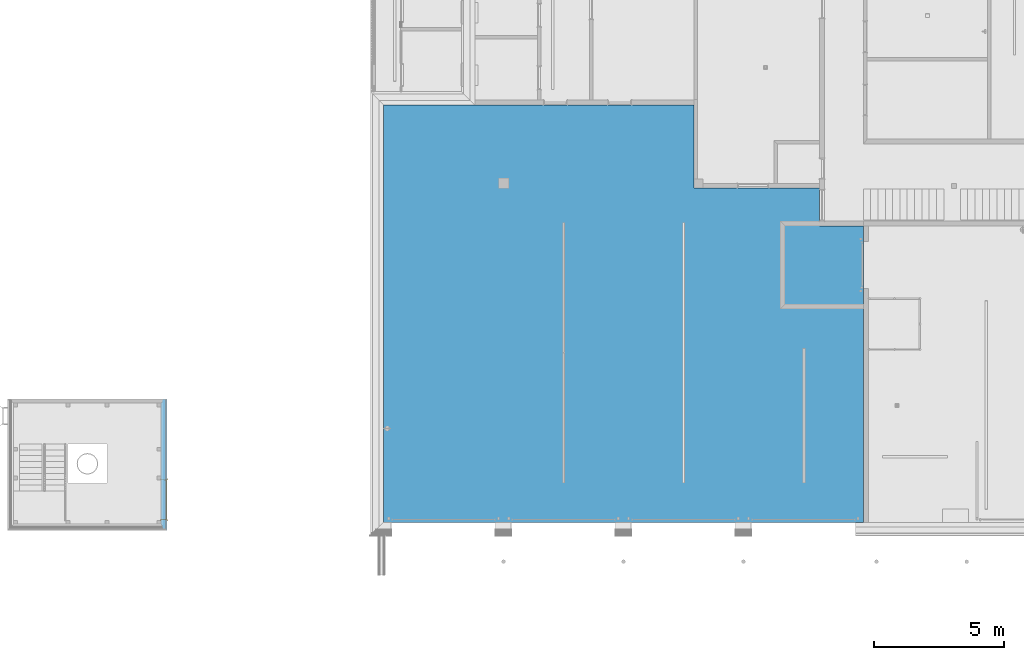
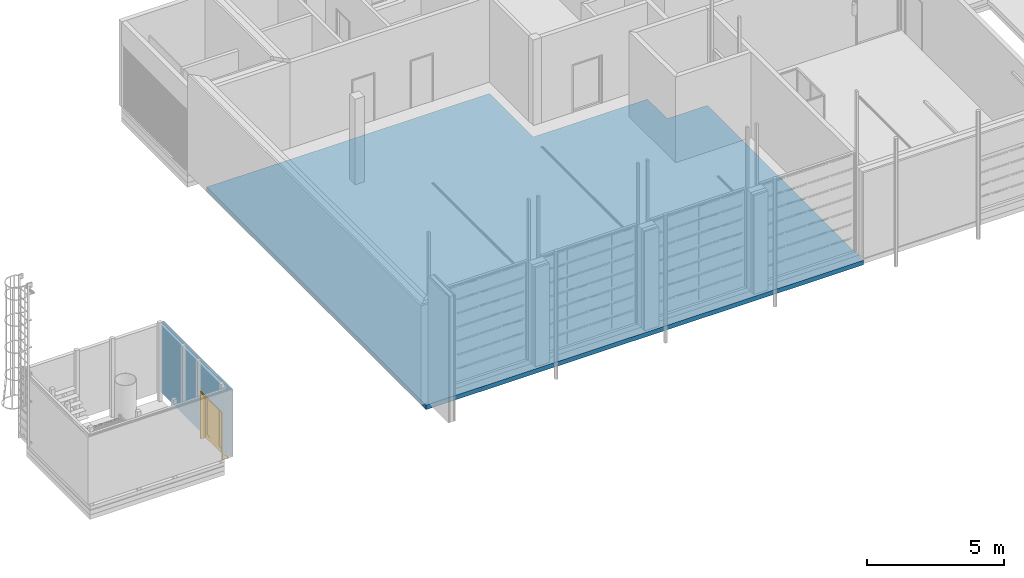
# One storey, part 48 of 112: 1 building element part, 1 door, 1 opening, 2 elements without a shape of their own, plus 5 elements that do not belong to this part.
"""IFC2X3 building model written with IfcOpenShell, lengths in millimetres."""

from ifc_helpers import new_model, entity, si_unit, converted_unit, derived_unit, money_unit, direction, frame, origin_with_axes, origin_2d_with_axis, place, context, subcontext, project, spatial, polyline, rectangle, outline, extrude, boolean, open_shell, faceted_brep, surface_model, material, type_object, element, fill, aggregate, save


model = new_model("IFC2X3")

# Units and contexts
model_context = context("Model", 3, precision=0.01, world=origin_with_axes(), true_north=direction((0.0, 1.0)))
body_context = subcontext(model_context, "Body", "Model", "MODEL_VIEW")
ifc_project = project(units=[si_unit("LENGTHUNIT", "METRE", prefix="MILLI"), si_unit("AREAUNIT", "SQUARE_METRE"), si_unit("VOLUMEUNIT", "CUBIC_METRE"), converted_unit("PLANEANGLEUNIT", "DEGREE", entity("IfcPlaneAngleMeasure", 0.0174532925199), si_unit("PLANEANGLEUNIT", "RADIAN"), dimensions=[0, 0, 0, 0, 0, 0, 0]), si_unit("SOLIDANGLEUNIT", "STERADIAN"), money_unit("EUR"), converted_unit("TIMEUNIT", "Year", entity("IfcTimeMeasure", 31556926.0), si_unit("TIMEUNIT", "SECOND"), dimensions=[0, 0, 1, 0, 0, 0, 0]), si_unit("MASSUNIT", "GRAM", prefix="KILO"), si_unit("THERMODYNAMICTEMPERATUREUNIT", "DEGREE_CELSIUS"), si_unit("LUMINOUSINTENSITYUNIT", "LUMEN"), si_unit("ENERGYUNIT", "JOULE", prefix="MEGA"), derived_unit("THERMALCONDUCTANCEUNIT", [(si_unit("POWERUNIT", "WATT"), 1), (si_unit("LENGTHUNIT", "METRE"), -1), (si_unit("THERMODYNAMICTEMPERATUREUNIT", "KELVIN"), -1)]), derived_unit("SPECIFICHEATCAPACITYUNIT", [(si_unit("ENERGYUNIT", "JOULE"), 1), (si_unit("MASSUNIT", "GRAM", prefix="KILO"), -1), (si_unit("THERMODYNAMICTEMPERATUREUNIT", "KELVIN"), -1)]), derived_unit("MASSDENSITYUNIT", [(si_unit("MASSUNIT", "GRAM", prefix="KILO"), 1), (si_unit("VOLUMEUNIT", "CUBIC_METRE"), -1)])], contexts=[model_context])

# Site, building, storey
site_placement = place(None, origin_with_axes())
site = spatial("IfcSite", under=ifc_project, at=site_placement, Name="Politse- ja Piirivalveameti ning Päästeameti ühishoone", CompositionType="ELEMENT")
building_placement = place(site_placement, origin_with_axes())
building = spatial("IfcBuilding", under=site, at=building_placement, Name="Politse- ja Piirivalveameti ning Päästeameti ühishoone", CompositionType="ELEMENT")
storey_placement = place(building_placement, origin_with_axes())
storey = spatial("IfcBuildingStorey", under=building, at=storey_placement, Name="Esimene korrus", CompositionType="ELEMENT", Elevation=0.0)

# Door
door_style = type_object("IfcDoorStyle", Name="Double Door Asymmetric 23", ConstructionType="NOTDEFINED", OperationType="DOUBLE_DOOR_SINGLE_SWING", ParameterTakesPrecedence=False, Sizeable=False)
wall_placement = place(storey_placement, frame((-8532.0, -75.0, 300.039365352), z_axis=(0.0, 0.0, 1.0), x_axis=(0.0, 1.0, 0.0)))
opening_placement = place(wall_placement, frame((943.714443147, 0.0, -300.039365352), z_axis=(0.0, 0.0, 1.0), x_axis=(1.0, 0.0, 0.0)))
door_placement = place(opening_placement, frame((775.0, 0.0, 0.0), z_axis=(0.0, 0.0, 1.0), x_axis=(-1.0, 0.0, 0.0)))
door = element("IfcDoor", 1, at=door_placement, inside=storey, type_object=door_style, Name="VU-21", ObjectType="DOOR", OverallHeight=2100.0, OverallWidth=1550.0, context=body_context, shape_type="SurfaceModel", body=[
    faceted_brep([(0.0, 110.0, 0.0), (25.0, 110.0, 0.0), (25.0, 0.0, 0.0), (0.0, 0.0, 0.0), (0.0, 110.0, 2100.0), (25.0, 110.0, 2075.0), (25.0, 0.0, 2075.0), (0.0, 0.0, 2100.0)], [[[0, 1, 2, 3]], [[0, 4, 5, 1]], [[1, 5, 6, 2]], [[3, 2, 6, 7]], [[4, 0, 3, 7]], [[5, 4, 7, 6]]]),
    faceted_brep([(1550.0, 110.0, 2100.0), (1525.0, 110.0, 2075.0), (1525.0, 0.0, 2075.0), (1550.0, 0.0, 2100.0), (1550.0, 110.0, 0.0), (1525.0, 110.0, 0.0), (1525.0, 0.0, 0.0), (1550.0, 0.0, 0.0)], [[[0, 1, 2, 3]], [[0, 4, 5, 1]], [[1, 5, 6, 2]], [[3, 2, 6, 7]], [[4, 0, 3, 7]], [[5, 4, 7, 6]]]),
    faceted_brep([(25.0, 110.0, 2075.0), (1525.0, 110.0, 2075.0), (1525.0, 0.0, 2075.0), (25.0, 0.0, 2075.0), (0.0, 110.0, 2100.0), (1550.0, 110.0, 2100.0), (1550.0, 0.0, 2100.0), (0.0, 0.0, 2100.0)], [[[0, 1, 2, 3]], [[0, 4, 5, 1]], [[1, 5, 6, 2]], [[3, 2, 6, 7]], [[4, 0, 3, 7]], [[5, 4, 7, 6]]]),
    faceted_brep([(-37.0, -19.0, 0.0), (-37.0, 0.0, 0.0), (13.0, 0.0, 0.0), (13.0, -19.0, 0.0), (-37.0, -19.0, 2137.0), (-37.0, 0.0, 2137.0), (13.0, 0.0, 2087.0), (13.0, -19.0, 2087.0)], [[[0, 1, 2, 3]], [[4, 5, 1, 0]], [[1, 5, 6, 2]], [[3, 2, 6, 7]], [[0, 3, 7, 4]], [[7, 6, 5, 4]]]),
    faceted_brep([(1587.0, -19.0, 2137.0), (1587.0, 0.0, 2137.0), (1537.0, 0.0, 2087.0), (1537.0, -19.0, 2087.0), (1587.0, -19.0, 0.0), (1587.0, 0.0, 0.0), (1537.0, 0.0, 0.0), (1537.0, -19.0, 0.0)], [[[0, 1, 2, 3]], [[4, 5, 1, 0]], [[1, 5, 6, 2]], [[3, 2, 6, 7]], [[0, 3, 7, 4]], [[7, 6, 5, 4]]]),
    faceted_brep([(-37.0, -19.0, 2137.0), (-37.0, 0.0, 2137.0), (13.0, 0.0, 2087.0), (13.0, -19.0, 2087.0), (1587.0, -19.0, 2137.0), (1587.0, 0.0, 2137.0), (1537.0, 0.0, 2087.0), (1537.0, -19.0, 2087.0)], [[[0, 1, 2, 3]], [[4, 5, 1, 0]], [[1, 5, 6, 2]], [[3, 2, 6, 7]], [[0, 3, 7, 4]], [[7, 6, 5, 4]]]),
    faceted_brep([(-37.0, 244.0, 0.0), (13.0, 244.0, 0.0), (13.0, 225.0, 0.0), (-37.0, 225.0, 0.0), (-37.0, 244.0, 2137.0), (13.0, 244.0, 2087.0), (13.0, 225.0, 2087.0), (-37.0, 225.0, 2137.0)], [[[0, 1, 2, 3]], [[0, 4, 5, 1]], [[1, 5, 6, 2]], [[3, 2, 6, 7]], [[4, 0, 3, 7]], [[5, 4, 7, 6]]]),
    faceted_brep([(1587.0, 244.0, 2137.0), (1537.0, 244.0, 2087.0), (1537.0, 225.0, 2087.0), (1587.0, 225.0, 2137.0), (1587.0, 244.0, 0.0), (1537.0, 244.0, 0.0), (1537.0, 225.0, 0.0), (1587.0, 225.0, 0.0)], [[[0, 1, 2, 3]], [[0, 4, 5, 1]], [[1, 5, 6, 2]], [[3, 2, 6, 7]], [[4, 0, 3, 7]], [[5, 4, 7, 6]]]),
    faceted_brep([(-37.0, 244.0, 2137.0), (13.0, 244.0, 2087.0), (13.0, 225.0, 2087.0), (-37.0, 225.0, 2137.0), (1587.0, 244.0, 2137.0), (1537.0, 244.0, 2087.0), (1537.0, 225.0, 2087.0), (1587.0, 225.0, 2137.0)], [[[0, 1, 2, 3]], [[0, 4, 5, 1]], [[1, 5, 6, 2]], [[3, 2, 6, 7]], [[4, 0, 3, 7]], [[5, 4, 7, 6]]]),
    faceted_brep([(40.0, 185.0, 0.0), (40.0, 185.0, 2060.0), (40.0, 110.0, 2060.0), (40.0, 110.0, 0.0), (28.0, 185.0, 2060.0), (28.0, 185.0, 0.0), (28.0, 225.0, 2060.0), (0.0, 225.0, 2060.0), (0.0, 110.0, 2060.0), (0.0, 110.0, 0.0), (0.0, 225.0, 0.0), (28.0, 225.0, 0.0)], [[[0, 1, 2, 3]], [[4, 1, 0, 5]], [[4, 6, 7, 8, 2, 1]], [[3, 2, 8, 9]], [[5, 0, 3, 9, 10, 11]], [[6, 4, 5, 11]], [[6, 11, 10, 7]], [[10, 9, 8, 7]]]),
    faceted_brep([(1522.0, 185.0, 2060.0), (1510.0, 185.0, 2060.0), (1510.0, 110.0, 2060.0), (1550.0, 110.0, 2060.0), (1550.0, 225.0, 2060.0), (1522.0, 225.0, 2060.0), (1522.0, 185.0, 0.0), (1510.0, 185.0, 0.0), (1510.0, 110.0, 0.0), (1550.0, 110.0, 0.0), (1550.0, 225.0, 0.0), (1522.0, 225.0, 0.0)], [[[0, 1, 2, 3, 4, 5]], [[1, 0, 6, 7]], [[1, 7, 8, 2]], [[3, 2, 8, 9]], [[4, 3, 9, 10]], [[11, 5, 4, 10]], [[0, 5, 11, 6]], [[6, 11, 10, 9, 8, 7]]]),
    faceted_brep([(28.0, 225.0, 2072.0), (28.0, 225.0, 2060.0), (0.0, 225.0, 2060.0), (0.0, 225.0, 2100.0), (1550.0, 225.0, 2100.0), (1550.0, 225.0, 2060.0), (1522.0, 225.0, 2060.0), (1522.0, 225.0, 2072.0), (28.0, 185.0, 2072.0), (28.0, 185.0, 2060.0), (40.0, 185.0, 2060.0), (40.0, 110.0, 2060.0), (0.0, 110.0, 2060.0), (0.0, 110.0, 2100.0), (1550.0, 110.0, 2100.0), (1550.0, 110.0, 2060.0), (1522.0, 185.0, 2060.0), (1510.0, 110.0, 2060.0), (1510.0, 185.0, 2060.0), (1522.0, 185.0, 2072.0)], [[[0, 1, 2, 3, 4, 5, 6, 7]], [[1, 0, 8, 9]], [[9, 10, 11, 12, 2, 1]], [[2, 12, 13, 3]], [[3, 13, 14, 4]], [[4, 14, 15, 5]], [[16, 6, 5, 15, 17, 18]], [[7, 6, 16, 19]], [[0, 7, 19, 8]], [[16, 18, 10, 9, 8, 19]], [[10, 18, 17, 11]], [[17, 15, 14, 13, 12, 11]]]),
    faceted_brep([(1522.0, 225.0, 200.0), (1522.0, 185.0, 200.0), (1422.0, 185.0, 200.0), (1422.0, 225.0, 200.0), (1522.0, 225.0, 1972.0), (1522.0, 185.0, 1972.0), (1422.0, 185.0, 1972.0), (1422.0, 225.0, 1972.0)], [[[0, 1, 2, 3]], [[4, 5, 1, 0]], [[1, 5, 6, 2]], [[3, 2, 6, 7]], [[0, 3, 7, 4]], [[7, 6, 5, 4]]]),
    faceted_brep([(922.0, 225.0, 200.0), (922.0, 185.0, 200.0), (922.0, 185.0, 1972.0), (922.0, 225.0, 1972.0), (1022.0, 225.0, 200.0), (1022.0, 185.0, 200.0), (1022.0, 185.0, 1972.0), (1022.0, 225.0, 1972.0)], [[[0, 1, 2, 3]], [[4, 5, 1, 0]], [[1, 5, 6, 2]], [[3, 2, 6, 7]], [[0, 3, 7, 4]], [[7, 6, 5, 4]]]),
    faceted_brep([(1522.0, 225.0, 0.0), (1522.0, 185.0, 0.0), (922.0, 185.0, 0.0), (922.0, 225.0, 0.0), (1522.0, 225.0, 200.0), (1522.0, 185.0, 200.0), (1422.0, 185.0, 200.0), (1022.0, 185.0, 200.0), (922.0, 185.0, 200.0), (922.0, 225.0, 200.0), (1022.0, 225.0, 200.0), (1422.0, 225.0, 200.0)], [[[0, 1, 2, 3]], [[4, 5, 1, 0]], [[1, 5, 6, 7, 8, 2]], [[3, 2, 8, 9]], [[0, 3, 9, 10, 11, 4]], [[11, 6, 5, 4]], [[10, 7, 6, 11]], [[9, 8, 7, 10]]]),
    faceted_brep([(1522.0, 225.0, 2072.0), (1522.0, 185.0, 2072.0), (1522.0, 185.0, 1972.0), (1522.0, 225.0, 1972.0), (922.0, 225.0, 2072.0), (922.0, 185.0, 2072.0), (922.0, 185.0, 1972.0), (1022.0, 185.0, 1972.0), (1422.0, 185.0, 1972.0), (1422.0, 225.0, 1972.0), (1022.0, 225.0, 1972.0), (922.0, 225.0, 1972.0)], [[[0, 1, 2, 3]], [[4, 5, 1, 0]], [[1, 5, 6, 7, 8, 2]], [[3, 2, 8, 9]], [[0, 3, 9, 10, 11, 4]], [[11, 6, 5, 4]], [[10, 7, 6, 11]], [[9, 8, 7, 10]]]),
    surface_model("IfcShellBasedSurfaceModel", [(1422.0, 211.0, 200.0), (1022.0, 211.0, 200.0), (1022.0, 211.0, 1972.0), (1422.0, 211.0, 1972.0)], [open_shell([[[0, 1, 2, 3]]])]),
    surface_model("IfcShellBasedSurfaceModel", [(1422.0, 199.0, 200.0), (1422.0, 199.0, 1972.0), (1022.0, 199.0, 1972.0), (1022.0, 199.0, 200.0)], [open_shell([[[0, 1, 2, 3]]])]),
    faceted_brep([(28.0, 225.0, 200.0), (128.0, 225.0, 200.0), (128.0, 185.0, 200.0), (28.0, 185.0, 200.0), (28.0, 225.0, 1972.0), (128.0, 225.0, 1972.0), (128.0, 185.0, 1972.0), (28.0, 185.0, 1972.0)], [[[0, 1, 2, 3]], [[0, 4, 5, 1]], [[1, 5, 6, 2]], [[3, 2, 6, 7]], [[4, 0, 3, 7]], [[5, 4, 7, 6]]]),
    faceted_brep([(922.0, 225.0, 200.0), (922.0, 225.0, 1972.0), (922.0, 185.0, 1972.0), (922.0, 185.0, 200.0), (822.0, 225.0, 200.0), (822.0, 225.0, 1972.0), (822.0, 185.0, 1972.0), (822.0, 185.0, 200.0)], [[[0, 1, 2, 3]], [[0, 4, 5, 1]], [[1, 5, 6, 2]], [[3, 2, 6, 7]], [[4, 0, 3, 7]], [[5, 4, 7, 6]]]),
    faceted_brep([(28.0, 225.0, 0.0), (922.0, 225.0, 0.0), (922.0, 185.0, 0.0), (28.0, 185.0, 0.0), (28.0, 225.0, 200.0), (128.0, 225.0, 200.0), (822.0, 225.0, 200.0), (922.0, 225.0, 200.0), (922.0, 185.0, 200.0), (822.0, 185.0, 200.0), (128.0, 185.0, 200.0), (28.0, 185.0, 200.0)], [[[0, 1, 2, 3]], [[0, 4, 5, 6, 7, 1]], [[1, 7, 8, 2]], [[3, 2, 8, 9, 10, 11]], [[4, 0, 3, 11]], [[5, 4, 11, 10]], [[6, 5, 10, 9]], [[7, 6, 9, 8]]]),
    faceted_brep([(28.0, 225.0, 2072.0), (28.0, 225.0, 1972.0), (28.0, 185.0, 1972.0), (28.0, 185.0, 2072.0), (922.0, 225.0, 2072.0), (922.0, 225.0, 1972.0), (822.0, 225.0, 1972.0), (128.0, 225.0, 1972.0), (128.0, 185.0, 1972.0), (822.0, 185.0, 1972.0), (922.0, 185.0, 1972.0), (922.0, 185.0, 2072.0)], [[[0, 1, 2, 3]], [[0, 4, 5, 6, 7, 1]], [[1, 7, 8, 2]], [[3, 2, 8, 9, 10, 11]], [[4, 0, 3, 11]], [[5, 4, 11, 10]], [[6, 5, 10, 9]], [[7, 6, 9, 8]]]),
    surface_model("IfcShellBasedSurfaceModel", [(128.0, 211.0, 200.0), (128.0, 211.0, 1972.0), (822.0, 211.0, 1972.0), (822.0, 211.0, 200.0)], [open_shell([[[0, 1, 2, 3]]])]),
    surface_model("IfcShellBasedSurfaceModel", [(128.0, 199.0, 200.0), (822.0, 199.0, 200.0), (822.0, 199.0, 1972.0), (128.0, 199.0, 1972.0)], [open_shell([[[0, 1, 2, 3]]])]),
])

# Slab, building element part
slab_type = type_object("IfcSlabType", Name="PP-01_Põrand pinnasel - garaaz 700", PredefinedType="NOTDEFINED")
slab_placement = place(storey_placement, origin_with_axes())
slab = element("IfcSlab", 2, at=slab_placement, inside=storey, type_object=slab_type, Name="PP-01", PredefinedType="NOTDEFINED")
ifc_material_1 = material(Name="VKK-03_Kruus")
building_element_part_1_placement = place(slab_placement, origin_with_axes())
building_element_part_1 = element("IfcBuildingElementPart", 3, at=building_element_part_1_placement, material=ifc_material_1, Name="VKK-03_Kruus", context=body_context, shape_type="CSG", body=[
    boolean("DIFFERENCE", boolean("DIFFERENCE", boolean("DIFFERENCE", extrude(outline(polyline([(0.0, 0.0), (18400.0881112, 0.0), (18400.0881112, 11370.0198611), (16710.2858198, 11370.0198611), (16710.2858198, 12810.0198611), (11900.1981808, 12810.0198611), (11900.1982011, 16000.0244522), (0.0, 16000.0244522), (0.0, 0.0)])), frame((0.0, 0.0, -700.0), z_axis=(0.0, 0.0, 1.0), x_axis=(1.0, 0.0, 0.0)), (0.0, 0.0, 1.0), 200.0), faceted_brep([(6854.91421387, 1500.0, 0.0), (6954.91421387, 1500.0, 0.0), (6954.91415426, 11500.0, 0.0), (6854.91421387, 11500.0, 0.0), (6854.91421387, 1500.0, -100.0), (6954.91421387, 1500.0, -100.0), (6954.91415426, 11500.0, -100.0), (6854.91421387, 11500.0, -100.0), (6859.91421387, 11495.0, -100.0), (6859.91421387, 6501.0, -100.0), (6859.91421387, 6499.0, -100.0), (6859.91415426, 1504.9999404, -100.0), (6880.16421387, 1505.0, -100.0), (6882.16418481, 1505.0, -100.0), (6903.91421387, 1505.0, -100.0), (6905.91421387, 1505.0, -100.0), (6927.66421387, 1505.0, -100.0), (6929.66421387, 1505.0, -100.0), (6949.91421387, 1504.9999404, -100.0), (6949.91421387, 6499.0, -100.0), (6949.91421387, 6501.0, -100.0), (6949.91421387, 11495.0, -100.0), (6929.66421387, 11495.0, -100.0), (6929.66421387, 6501.0, -100.0), (6929.66421387, 6499.0, -100.0), (6927.66421387, 6499.0, -100.0), (6927.66421387, 6501.0, -100.0), (6927.66421387, 11495.0, -100.0), (6905.91421387, 11495.0, -100.0), (6905.91421387, 6501.0, -100.0), (6905.91421387, 6499.0, -100.0), (6903.91421387, 6499.0, -100.0), (6903.91421387, 6501.0, -100.0), (6903.91421387, 11495.0, -100.0), (6882.16421387, 11495.0, -100.0), (6882.16421387, 6501.0, -100.0), (6882.16421387, 6499.0, -100.0), (6880.16421387, 6499.0, -100.0), (6880.16421387, 6501.0, -100.0), (6880.16421387, 11495.0, -100.0), (6859.91421387, 11495.0, -56.35), (6859.91421387, 6501.0, -56.35), (6859.91421387, 6499.0, -56.35), (6859.91415426, 1504.9999404, -56.35), (6880.16421387, 1505.0, -56.35), (6882.16418481, 1505.0, -56.35), (6903.91421387, 1505.0, -56.35), (6905.91421387, 1505.0, -56.35), (6927.66421387, 1505.0, -56.35), (6929.66421387, 1505.0, -56.35), (6949.91421387, 1504.9999404, -56.35), (6949.91421387, 6499.0, -56.35), (6949.91421387, 6501.0, -56.35), (6949.91421387, 11495.0, -56.35), (6929.66421387, 11495.0, -56.35), (6929.66421387, 6501.0, -56.35), (6929.66421387, 6499.0, -56.35), (6927.66421387, 6499.0, -56.35), (6927.66421387, 6501.0, -56.35), (6927.66421387, 11495.0, -56.35), (6905.91421387, 11495.0, -56.35), (6905.91421387, 6501.0, -56.35), (6905.91421387, 6499.0, -56.35), (6903.91421387, 6499.0, -56.35), (6903.91421387, 6501.0, -56.35), (6903.91421387, 11495.0, -56.35), (6882.16421387, 11495.0, -56.35), (6882.16421387, 6501.0, -56.35), (6882.16421387, 6499.0, -56.35), (6880.16421387, 6499.0, -56.35), (6880.16421387, 6501.0, -56.35), (6880.16421387, 11495.0, -56.35)], [[[0, 1, 2, 3]], [[1, 0, 4, 5]], [[2, 1, 5, 6]], [[3, 2, 6, 7]], [[0, 3, 7, 4]], [[7, 8, 9, 10, 11, 12, 13, 14, 15, 16, 17, 18, 19, 20, 21, 6, 5, 4]], [[8, 7, 6, 21, 22, 23, 24, 17, 16, 25, 26, 27, 28, 29, 30, 15, 14, 31, 32, 33, 34, 35, 36, 13, 12, 37, 38, 39]], [[8, 40, 41, 9]], [[10, 9, 38, 37]], [[10, 42, 43, 11]], [[11, 43, 44, 12]], [[13, 45, 46, 14]], [[15, 47, 48, 16]], [[17, 49, 50, 18]], [[18, 50, 51, 19]], [[24, 23, 20, 19]], [[20, 52, 53, 21]], [[54, 22, 21, 53]], [[22, 54, 55, 23]], [[49, 17, 24, 56]], [[16, 48, 57, 25]], [[25, 30, 29, 26]], [[26, 58, 59, 27]], [[60, 28, 27, 59]], [[28, 60, 61, 29]], [[47, 15, 30, 62]], [[14, 46, 63, 31]], [[36, 35, 32, 31]], [[32, 64, 65, 33]], [[66, 34, 33, 65]], [[34, 66, 67, 35]], [[45, 13, 36, 68]], [[69, 37, 12, 44]], [[38, 70, 71, 39]], [[40, 8, 39, 71]], [[41, 40, 71, 70]], [[9, 41, 70, 38]], [[42, 10, 37, 69]], [[43, 42, 69, 44]], [[46, 45, 68, 63]], [[48, 47, 62, 57]], [[50, 49, 56, 51]], [[56, 24, 19, 51]], [[23, 55, 52, 20]], [[55, 54, 53, 52]], [[62, 30, 25, 57]], [[29, 61, 58, 26]], [[61, 60, 59, 58]], [[68, 36, 31, 63]], [[35, 67, 64, 32]], [[64, 67, 66, 65]]])), faceted_brep([(11453.4204853, 1502.5, 0.0), (11553.4204853, 1502.5, 0.0), (11553.4204257, 11502.5, 0.0), (11453.4204853, 11502.5, 0.0), (11453.4204853, 1502.5, -100.0), (11553.4204853, 1502.5, -100.0), (11553.4204257, 11502.5, -100.0), (11453.4204853, 11502.5, -100.0), (11458.4204853, 11497.5, -100.0), (11458.4204853, 6503.5, -100.0), (11458.4204853, 6501.5, -100.0), (11458.4204257, 1507.4999404, -100.0), (11478.6704853, 1507.5, -100.0), (11480.6704563, 1507.5, -100.0), (11502.4204853, 1507.5, -100.0), (11504.4204853, 1507.5, -100.0), (11526.1704853, 1507.5, -100.0), (11528.1704853, 1507.5, -100.0), (11548.4204853, 1507.4999404, -100.0), (11548.4204853, 6501.5, -100.0), (11548.4204853, 6503.5, -100.0), (11548.4204853, 11497.5, -100.0), (11528.1704853, 11497.5, -100.0), (11528.1704853, 6503.5, -100.0), (11528.1704853, 6501.5, -100.0), (11526.1704853, 6501.5, -100.0), (11526.1704853, 6503.5, -100.0), (11526.1704853, 11497.5, -100.0), (11504.4204853, 11497.5, -100.0), (11504.4204853, 6503.5, -100.0), (11504.4204853, 6501.5, -100.0), (11502.4204853, 6501.5, -100.0), (11502.4204853, 6503.5, -100.0), (11502.4204853, 11497.5, -100.0), (11480.6704853, 11497.5, -100.0), (11480.6704853, 6503.5, -100.0), (11480.6704853, 6501.5, -100.0), (11478.6704853, 6501.5, -100.0), (11478.6704853, 6503.5, -100.0), (11478.6704853, 11497.5, -100.0), (11458.4204853, 11497.5, -56.35), (11458.4204853, 6503.5, -56.35), (11458.4204853, 6501.5, -56.35), (11458.4204257, 1507.4999404, -56.35), (11478.6704853, 1507.5, -56.35), (11480.6704563, 1507.5, -56.35), (11502.4204853, 1507.5, -56.35), (11504.4204853, 1507.5, -56.35), (11526.1704853, 1507.5, -56.35), (11528.1704853, 1507.5, -56.35), (11548.4204853, 1507.4999404, -56.35), (11548.4204853, 6501.5, -56.35), (11548.4204853, 6503.5, -56.35), (11548.4204853, 11497.5, -56.35), (11528.1704853, 11497.5, -56.35), (11528.1704853, 6503.5, -56.35), (11528.1704853, 6501.5, -56.35), (11526.1704853, 6501.5, -56.35), (11526.1704853, 6503.5, -56.35), (11526.1704853, 11497.5, -56.35), (11504.4204853, 11497.5, -56.35), (11504.4204853, 6503.5, -56.35), (11504.4204853, 6501.5, -56.35), (11502.4204853, 6501.5, -56.35), (11502.4204853, 6503.5, -56.35), (11502.4204853, 11497.5, -56.35), (11480.6704853, 11497.5, -56.35), (11480.6704853, 6503.5, -56.35), (11480.6704853, 6501.5, -56.35), (11478.6704853, 6501.5, -56.35), (11478.6704853, 6503.5, -56.35), (11478.6704853, 11497.5, -56.35)], [[[0, 1, 2, 3]], [[1, 0, 4, 5]], [[2, 1, 5, 6]], [[3, 2, 6, 7]], [[0, 3, 7, 4]], [[7, 8, 9, 10, 11, 12, 13, 14, 15, 16, 17, 18, 19, 20, 21, 6, 5, 4]], [[8, 7, 6, 21, 22, 23, 24, 17, 16, 25, 26, 27, 28, 29, 30, 15, 14, 31, 32, 33, 34, 35, 36, 13, 12, 37, 38, 39]], [[40, 41, 9, 8]], [[9, 38, 37, 10]], [[42, 43, 11, 10]], [[43, 44, 12, 11]], [[45, 46, 14, 13]], [[47, 48, 16, 15]], [[49, 50, 18, 17]], [[50, 51, 19, 18]], [[23, 20, 19, 24]], [[52, 53, 21, 20]], [[22, 21, 53, 54]], [[54, 55, 23, 22]], [[17, 24, 56, 49]], [[48, 57, 25, 16]], [[30, 29, 26, 25]], [[58, 59, 27, 26]], [[28, 27, 59, 60]], [[60, 61, 29, 28]], [[15, 30, 62, 47]], [[46, 63, 31, 14]], [[35, 32, 31, 36]], [[64, 65, 33, 32]], [[34, 33, 65, 66]], [[66, 67, 35, 34]], [[13, 36, 68, 45]], [[37, 12, 44, 69]], [[70, 71, 39, 38]], [[8, 39, 71, 40]], [[40, 71, 70, 41]], [[41, 70, 38, 9]], [[10, 37, 69, 42]], [[42, 69, 44, 43]], [[45, 68, 63, 46]], [[47, 62, 57, 48]], [[49, 56, 51, 50]], [[24, 19, 51, 56]], [[55, 52, 20, 23]], [[54, 53, 52, 55]], [[30, 25, 57, 62]], [[61, 58, 26, 29]], [[60, 59, 58, 61]], [[36, 31, 63, 68]], [[67, 64, 32, 35]], [[67, 66, 65, 64]]])), faceted_brep([(16070.5391714, 1502.5, 0.0), (16170.5391714, 1502.5, 0.0), (16170.5391714, 6677.51986111, 0.0), (16070.5391714, 6677.51986111, 0.0), (16070.5391714, 1502.5, -100.0), (16170.5391714, 1502.5, -100.0), (16170.5391714, 6677.51986111, -100.0), (16070.5391714, 6677.51986111, -100.0), (16075.5391714, 6672.51986111, -100.0), (16075.5391714, 4091.00993056, -100.0), (16075.5391714, 4089.00993056, -100.0), (16075.5391582, 1507.49998678, -100.0), (16095.7891714, 1507.5, -100.0), (16097.7891804, 1507.5, -100.0), (16119.5391714, 1507.5, -100.0), (16121.5391714, 1507.5, -100.0), (16143.2891714, 1507.5, -100.0), (16145.2891714, 1507.5, -100.0), (16165.5391714, 1507.49998678, -100.0), (16165.5391714, 4089.00993056, -100.0), (16165.5391714, 4091.00993056, -100.0), (16165.5391714, 6672.51986111, -100.0), (16145.2891714, 6672.51986111, -100.0), (16145.2891714, 4091.00993056, -100.0), (16145.2891714, 4089.00993056, -100.0), (16143.2891714, 4089.00993056, -100.0), (16143.2891714, 4091.00993056, -100.0), (16143.2891714, 6672.51986111, -100.0), (16121.5391714, 6672.51986111, -100.0), (16121.5391714, 4091.00993056, -100.0), (16121.5391714, 4089.00993056, -100.0), (16119.5391714, 4089.00993056, -100.0), (16119.5391714, 4091.00993056, -100.0), (16119.5391714, 6672.51986111, -100.0), (16097.7891714, 6672.51986111, -100.0), (16097.7891714, 4091.00993056, -100.0), (16097.7891714, 4089.00993056, -100.0), (16095.7891714, 4089.00993056, -100.0), (16095.7891714, 4091.00993056, -100.0), (16095.7891714, 6672.51986111, -100.0), (16075.5391714, 6672.51986111, -56.35), (16075.5391714, 4091.00993056, -56.35), (16075.5391714, 4089.00993056, -56.35), (16075.5391582, 1507.49998678, -56.35), (16095.7891714, 1507.5, -56.35), (16097.7891804, 1507.5, -56.35), (16119.5391714, 1507.5, -56.35), (16121.5391714, 1507.5, -56.35), (16143.2891714, 1507.5, -56.35), (16145.2891714, 1507.5, -56.35), (16165.5391714, 1507.49998678, -56.35), (16165.5391714, 4089.00993056, -56.35), (16165.5391714, 4091.00993056, -56.35), (16165.5391714, 6672.51986111, -56.35), (16145.2891714, 6672.51986111, -56.35), (16145.2891714, 4091.00993056, -56.35), (16145.2891714, 4089.00993056, -56.35), (16143.2891714, 4089.00993056, -56.35), (16143.2891714, 4091.00993056, -56.35), (16143.2891714, 6672.51986111, -56.35), (16121.5391714, 6672.51986111, -56.35), (16121.5391714, 4091.00993056, -56.35), (16121.5391714, 4089.00993056, -56.35), (16119.5391714, 4089.00993056, -56.35), (16119.5391714, 4091.00993056, -56.35), (16119.5391714, 6672.51986111, -56.35), (16097.7891714, 6672.51986111, -56.35), (16097.7891714, 4091.00993056, -56.35), (16097.7891714, 4089.00993056, -56.35), (16095.7891714, 4089.00993056, -56.35), (16095.7891714, 4091.00993056, -56.35), (16095.7891714, 6672.51986111, -56.35)], [[[0, 1, 2, 3]], [[1, 0, 4, 5]], [[2, 1, 5, 6]], [[3, 2, 6, 7]], [[0, 3, 7, 4]], [[7, 8, 9, 10, 11, 12, 13, 14, 15, 16, 17, 18, 19, 20, 21, 6, 5, 4]], [[8, 7, 6, 21, 22, 23, 24, 17, 16, 25, 26, 27, 28, 29, 30, 15, 14, 31, 32, 33, 34, 35, 36, 13, 12, 37, 38, 39]], [[9, 8, 40, 41]], [[37, 10, 9, 38]], [[11, 10, 42, 43]], [[12, 11, 43, 44]], [[14, 13, 45, 46]], [[16, 15, 47, 48]], [[18, 17, 49, 50]], [[19, 18, 50, 51]], [[19, 24, 23, 20]], [[21, 20, 52, 53]], [[53, 54, 22, 21]], [[23, 22, 54, 55]], [[56, 49, 17, 24]], [[25, 16, 48, 57]], [[26, 25, 30, 29]], [[27, 26, 58, 59]], [[59, 60, 28, 27]], [[29, 28, 60, 61]], [[62, 47, 15, 30]], [[31, 14, 46, 63]], [[31, 36, 35, 32]], [[33, 32, 64, 65]], [[65, 66, 34, 33]], [[35, 34, 66, 67]], [[68, 45, 13, 36]], [[44, 69, 37, 12]], [[39, 38, 70, 71]], [[71, 40, 8, 39]], [[70, 41, 40, 71]], [[38, 9, 41, 70]], [[69, 42, 10, 37]], [[44, 43, 42, 69]], [[63, 46, 45, 68]], [[57, 48, 47, 62]], [[51, 50, 49, 56]], [[51, 56, 24, 19]], [[20, 23, 55, 52]], [[52, 55, 54, 53]], [[57, 62, 30, 25]], [[26, 29, 61, 58]], [[58, 61, 60, 59]], [[63, 68, 36, 31]], [[32, 35, 67, 64]], [[65, 64, 67, 66]]])),
])
aggregate(slab, [building_element_part_1])

# Wall, opening
wall_type = type_object("IfcWallType", Name="VS-20_Välissein jarjutustorn 225", PredefinedType="NOTDEFINED")
wall = element("IfcWall", 4, at=wall_placement, inside=storey, type_object=wall_type, Name="VS-20")
opening = element("IfcOpeningElement", 5, at=opening_placement, cuts=wall, Name="VU-21", context=body_context, shape_type="SweptSolid", body=[
    extrude(rectangle(XDim=1550.0, YDim=2100.0, at=origin_2d_with_axis()), frame((0.0, 225.0, 1050.0), z_axis=(0.0, -1.0, 0.0), x_axis=(-1.0, 0.0, 0.0)), (0.0, 0.0, 1.0), 675.0),
    extrude(rectangle(XDim=1624.0, YDim=2137.0, at=origin_2d_with_axis()), frame((0.0, 0.0, 1068.5), z_axis=(0.0, -1.0, 0.0), x_axis=(-1.0, 0.0, 0.0)), (0.0, 0.0, -1.0), 225.0),
    extrude(rectangle(XDim=1624.0, YDim=2137.0, at=origin_2d_with_axis()), frame((0.0, -225.0, 1068.5), z_axis=(0.0, 1.0, 0.0), x_axis=(-1.0, 0.0, 0.0)), (0.0, 0.0, -1.0), 225.0),
])

fill(opening, door)

# Building element part
ifc_material_2 = material(Name="Õhkvahe - Raam")
building_element_part_2_placement = place(wall_placement, origin_with_axes())
building_element_part_2 = element("IfcBuildingElementPart", 6, at=building_element_part_2_placement, material=ifc_material_2, Name="Õhkvahe - Raam", context=body_context, shape_type="SweptSolid", body=[
    extrude(outline(polyline([(-100.0, -100.0), (4717.12835547, -100.0), (4650.4616888, 0.0), (0.0, 0.0), (-100.0, -100.0)])), origin_with_axes(), (0.0, 0.0, 1.0), 2999.96063465),
])

ifc_material_3 = material(Name="SKR-05_Vineer")
building_element_part_3_placement = place(wall_placement, origin_with_axes())
building_element_part_3 = element("IfcBuildingElementPart", 7, at=building_element_part_3_placement, material=ifc_material_3, Name="SKR-05_Vineer", context=body_context, shape_type="SweptSolid", body=[
    extrude(outline(polyline([(-115.0, -115.0), (4727.12835547, -115.0), (4717.12835547, -100.0), (-100.0, -100.0), (-115.0, -115.0)])), origin_with_axes(), (0.0, 0.0, 1.0), 2999.96063465),
])

ifc_material_4 = material(Name="SKR-01_Õhkvahe - Raam")
building_element_part_4_placement = place(wall_placement, origin_with_axes())
building_element_part_4 = element("IfcBuildingElementPart", 8, at=building_element_part_4_placement, material=ifc_material_4, Name="SKR-01_Õhkvahe - Raam", context=body_context, shape_type="SweptSolid", body=[
    extrude(outline(polyline([(-130.0, -130.0), (4737.12835547, -130.0), (4727.12835547, -115.0), (-115.0, -115.0), (-130.0, -130.0)])), origin_with_axes(), (0.0, 0.0, 1.0), 2999.96063465),
])

building_element_part_5_placement = place(wall_placement, origin_with_axes())
building_element_part_5 = element("IfcBuildingElementPart", 9, at=building_element_part_5_placement, material=ifc_material_4, Name="SKR-01_Õhkvahe - Raam", context=body_context, shape_type="SweptSolid", body=[
    extrude(outline(polyline([(-180.0, -180.0), (4770.4616888, -180.0), (4737.12835547, -130.0), (-130.0, -130.0), (-180.0, -180.0)])), origin_with_axes(), (0.0, 0.0, 1.0), 2999.96063465),
])

ifc_material_5 = material(Name="SKR-04_Puitplaat")
building_element_part_6_placement = place(wall_placement, origin_with_axes())
building_element_part_6 = element("IfcBuildingElementPart", 10, at=building_element_part_6_placement, material=ifc_material_5, Name="SKR-04_Puitplaat", context=body_context, shape_type="SweptSolid", body=[
    extrude(outline(polyline([(-225.0, -225.0), (4800.4616888, -225.0), (4770.4616888, -180.0), (-180.0, -180.0), (-225.0, -225.0)])), origin_with_axes(), (0.0, 0.0, 1.0), 2999.96063465),
])

aggregate(wall, [building_element_part_2, building_element_part_3, building_element_part_4, building_element_part_5, building_element_part_6])

save(model, "model.ifc")
